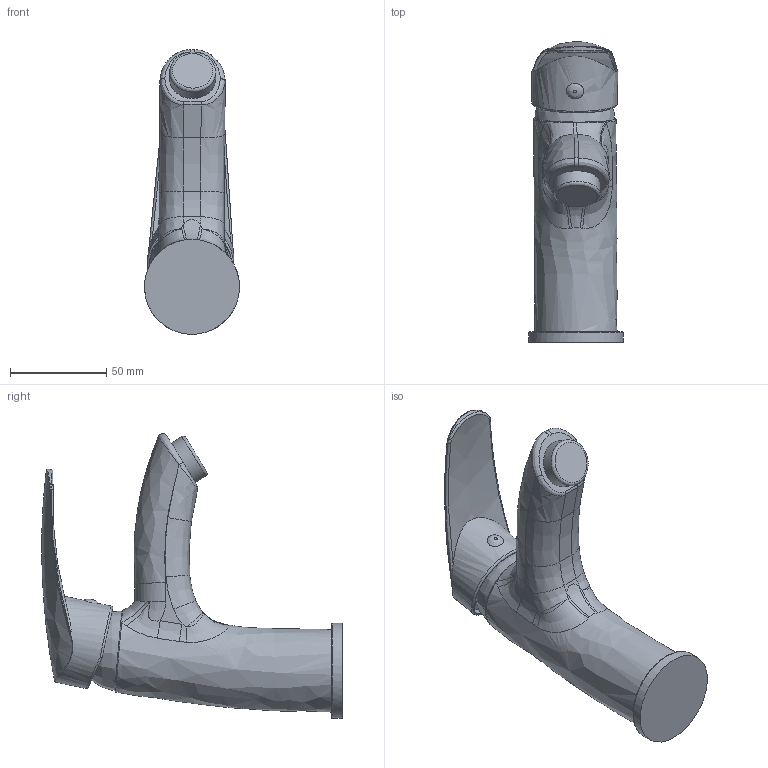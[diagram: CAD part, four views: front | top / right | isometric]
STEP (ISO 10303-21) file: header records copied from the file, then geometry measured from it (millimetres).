
FILE_DESCRIPTION(/* description */ (''),/* implementation_level */ '2;1');
FILE_NAME(/* name */ 'c:\worker\convert-fusion-oct-2018\tmp\job-1\149\output\files\ec65b76c-3560-4ce2-85ab-065b3a8ec5e6\31b760bb-d8f8-4468-b097-5b6aab274ad4.stp',/* time_stamp */ '2018-11-02T08:46:48+00:00',/* author */ (''),/* organization */ (''),/* preprocessor_version */ 'ST-DEVELOPER v17.2',/* originating_system */ 'Autodesk Translation Framework v7.6.0.251',/* authorisation */ '');
FILE_SCHEMA (('AUTOMOTIVE_DESIGN { 1 0 10303 214 3 1 1 }'));
Length unit declared in the file: millimetre
Products named in the file (1): YK3310
Bounding box: 49.47 x 156.51 x 148.22 mm (x, y, z)
Volume: 306936.1 mm3; surface area: 40743.2 mm2
Topology: 1 solids, 1 shells, 92 faces, 223 edges, 137 vertices
Faces by surface type: bspline 76, plane 16
Entity records: 25038 total; most frequent: CARTESIAN_POINT 23386, ORIENTED_EDGE 446, EDGE_CURVE 223, DIRECTION 151, B_SPLINE_CURVE_WITH_KNOTS 149, VERTEX_POINT 137, EDGE_LOOP 96, FACE_OUTER_BOUND 92
